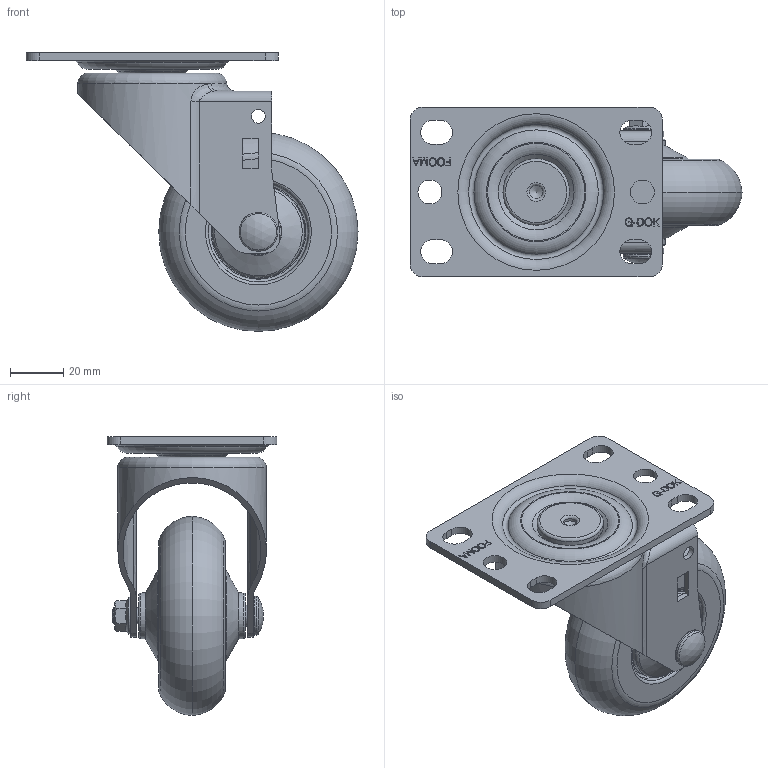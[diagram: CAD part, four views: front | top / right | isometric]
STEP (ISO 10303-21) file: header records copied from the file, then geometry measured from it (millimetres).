
FILE_DESCRIPTION(/* description */ (''),/* implementation_level */ '2;1');
FILE_NAME(/* name */ 'E:\홈피용도면\\X2\C2E0ADDCD648D398C774C9C0C6A9B3C4BA74\X0\\무소음캐스터\20160225-\X2\BB34C18CC74CCE90C2A4D130\X0\\GL-75-ASF.stp',/* time_stamp */ '2016-02-25T20:32:56+09:00',/* author */ ('장용하'),/* organization */ (''),/* preprocessor_version */ 'ST-DEVELOPER v15.6',/* originating_system */ 'Autodesk Inventor 2015',/* authorisation */ '');
FILE_SCHEMA (('AUTOMOTIVE_DESIGN { 1 0 10303 214 3 1 1 }'));
Length unit declared in the file: millimetre
Products named in the file (1): GL-75-ASF
Bounding box: 125 x 64 x 105 mm (x, y, z)
Volume: 136302.3 mm3; surface area: 55082.4 mm2
Topology: 2 solids, 3 shells, 859 faces, 2339 edges, 1532 vertices
Faces by surface type: plane 700, torus 64, cylinder 48, cone 31, bspline 15, sphere 1
Full cylindrical faces by diameter (mm): 5 x1, 5.2 x2, 6 x2, 6.2 x1, 7 x1, 8 x1, 9 x2, 11 x1, 11.1 x1, 11.2 x1, 14 x1, 14.6 x1, 16 x1, 24.645 x1, 25 x1, 41 x1
Entity records: 27507 total; most frequent: CARTESIAN_POINT 6175, ORIENTED_EDGE 4446, DIRECTION 4090, EDGE_CURVE 2223, LINE 1950, VECTOR 1950, VERTEX_POINT 1524, AXIS2_PLACEMENT_3D 1070
